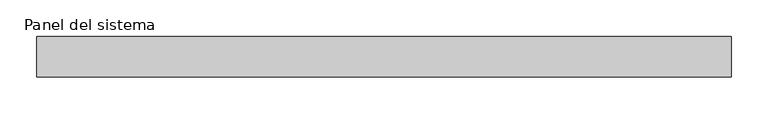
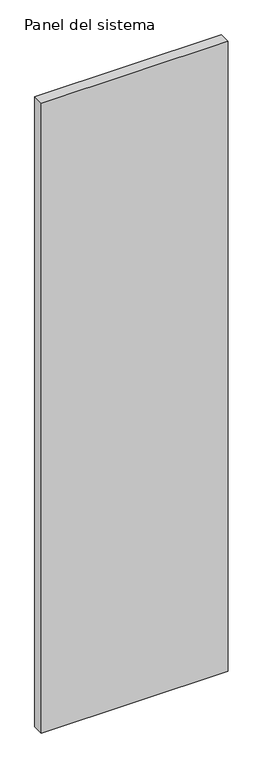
"""IFC4 building model written with IfcOpenShell, lengths in millimetres: plate geometry, Panel del sistema : HIANSA - CHAPA PERFILADA CUBIERTA - MT56 DECK."""

from ifc_helpers import new_model, si_unit, origin, origin_with_axes, place, context, project, spatial, polyline, outline, extrude, source, transform, mapped, element, save


def panel_del_sistema_d37c4fc5(model_context):
    return source(origin(), model_context, "Body", "SweptSolid", [
        extrude(outline(polyline([(476.0000002, 0.0), (-476.0000002, 0.0), (-476.0000002, 56.0), (476.0000002, 56.0), (476.0000002, 0.0)])), origin_with_axes(), (0.0, 0.0, 1.0), 3390.8509027),
    ])


if __name__ == "__main__":
    model = new_model("IFC4")
    model_context = context("Model", 3, world=origin())
    ifc_project = project(units=[si_unit("LENGTHUNIT", "METRE", prefix="MILLI")], contexts=[model_context])
    site = spatial("IfcSite", under=ifc_project)
    building = spatial("IfcBuilding", under=site)
    placement = place(None, origin())
    panel_del_sistema_shape = panel_del_sistema_d37c4fc5(model_context)
    element("IfcPlate", 1, ObjectType="Panel del sistema : HIANSA - CHAPA PERFILADA CUBIERTA - MT56 DECK", at=placement, inside=building, context=model_context, shape_type="MappedRepresentation", body=[
        mapped(panel_del_sistema_shape, transform((0.0, 0.0, 0.0), x_axis=(1.0, 0.0, 0.0), y_axis=(0.0, 1.0, 0.0), z_axis=(0.0, 0.0, 1.0))),
    ])
    save(model, "model.ifc")
